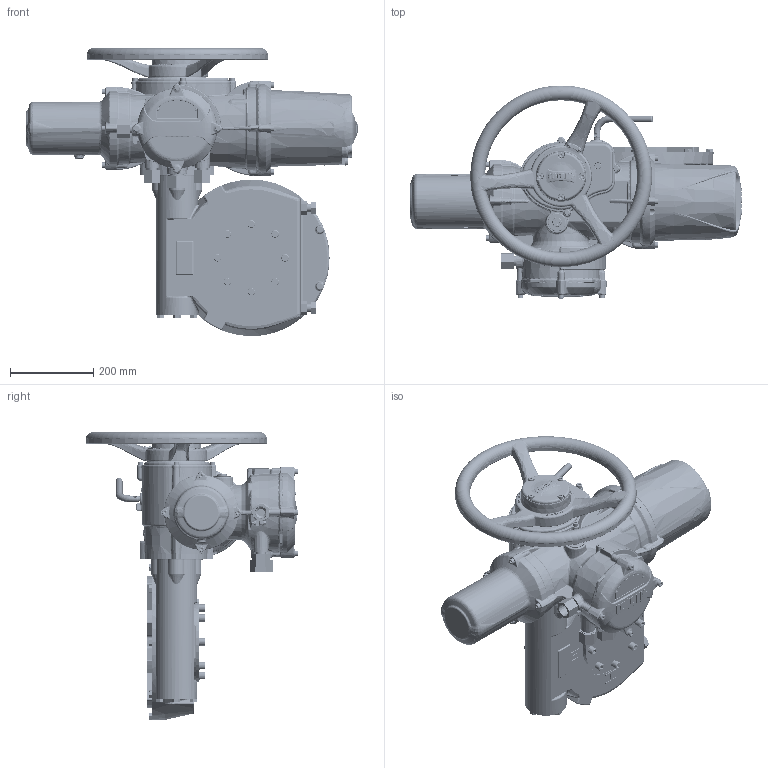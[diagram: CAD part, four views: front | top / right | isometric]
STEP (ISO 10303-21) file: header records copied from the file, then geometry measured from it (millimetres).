
FILE_DESCRIPTION( ( 'Unknown' ), '1' );
FILE_NAME( 'S:/DocsUnderChange/DrawingsFromMTMS/InstallationDrgs/Standardised drawings/IQ3/IWD/II2THWIWD6STD-1.stp', 'Unknown', ( 'Unknown' ), ( 'Unknown' ), 'PSStep 17.0.49', 'Unknown', ' ' );
FILE_SCHEMA( ( 'AUTOMOTIVE_DESIGN { 1 0 10303 214 1 1 1 1 }' ) );
Length unit declared in the file: millimetre
Products named in the file (8): II0-20LONG-std
Bounding box: 795.75 x 510.06 x 690.63 mm (x, y, z)
Volume: 75104.3 mm3; surface area: 1777729.9 mm2
Topology: 68 solids, 69 shells, 7853 faces, 19951 edges, 12074 vertices
Faces by surface type: plane 2861, bspline 2318, cylinder 1001, cone 758, torus 545, sphere 190, extrusion 144, revolution 21, offset 15
Full cylindrical faces by diameter (mm): 0.2 x1, 1.152 x1, 3 x8, 3.54 x2, 4 x2, 4.753 x1, 4.773 x1, 6 x6, 6.2 x1, 6.4 x1, 6.45 x8, 6.47 x8, 6.5 x1, 6.75 x1, 7 x4, 7.6 x4, 8 x25, 8.1 x1, 8.2 x1, 8.5 x4, 10 x13, 10.5 x16, 11 x4, 11.78 x1, 12 x9, 12.5 x8, 13 x25, 13.25 x4, 14 x1, 15.5 x1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
Entity records: 651607 total; most frequent: CARTESIAN_POINT 424670, ORIENTED_EDGE 37662, DIRECTION 28554, EDGE_CURVE 18831, VERTEX_POINT 11748, AXIS2_PLACEMENT_3D 11343, EDGE_LOOP 8702, FACE_OUTER_BOUND 8154
